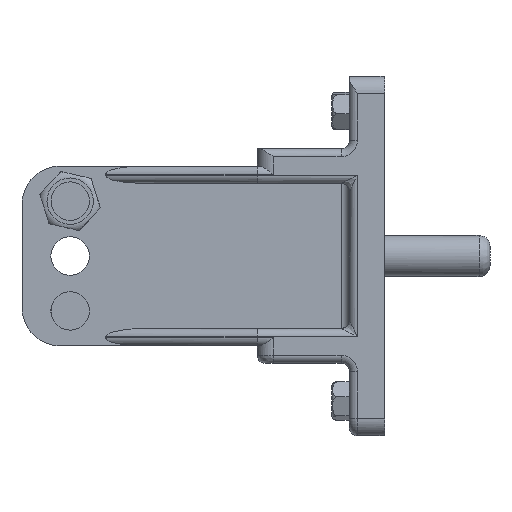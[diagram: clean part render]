
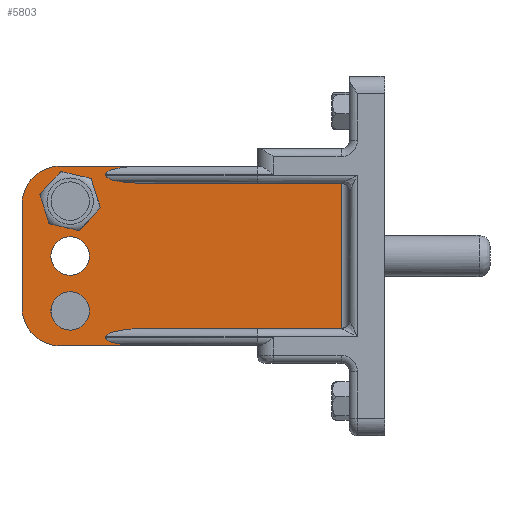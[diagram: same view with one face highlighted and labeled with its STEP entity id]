
A CAD part, left-side view. The second image highlights one B-rep face of the part: STEP entity #5803.
In plain terms, the highlighted planar face has unit normal (-1, 0, 0).
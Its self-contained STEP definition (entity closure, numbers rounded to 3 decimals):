
#65=ELLIPSE('',#6396,1.335,0.3);
#67=ELLIPSE('',#6399,1.335,0.3);
#73=ELLIPSE('',#6409,1.335,0.3);
#75=ELLIPSE('',#6412,1.335,0.3);
#136=FACE_BOUND('',#2091,.T.);
#137=FACE_BOUND('',#2092,.T.);
#138=FACE_BOUND('',#2093,.T.);
#257=PLANE('',#6411);
#707=LINE('',#10740,#1150);
#771=LINE('',#11058,#1214);
#779=LINE('',#11326,#1222);
#784=LINE('',#11363,#1227);
#786=LINE('',#11399,#1229);
#787=LINE('',#11400,#1230);
#788=LINE('',#11402,#1231);
#789=LINE('',#11405,#1232);
#1150=VECTOR('',#7614,10.);
#1214=VECTOR('',#7836,1.);
#1222=VECTOR('',#7868,1.);
#1227=VECTOR('',#7881,1.);
#1229=VECTOR('',#7895,1.);
#1230=VECTOR('',#7896,1.);
#1231=VECTOR('',#7897,1.);
#1232=VECTOR('',#7900,1.);
#1725=FACE_OUTER_BOUND('',#2090,.T.);
#2090=EDGE_LOOP('',(#5157,#5158,#5159,#5160,#5161,#5162,#5163,#5164,#5165,
#5166,#5167,#5168,#5169,#5170));
#2091=EDGE_LOOP('',(#5171));
#2092=EDGE_LOOP('',(#5172));
#2093=EDGE_LOOP('',(#5173));
#2320=CIRCLE('',#6260,0.852);
#2338=CIRCLE('',#6289,0.7);
#2342=CIRCLE('',#6295,0.7);
#2347=CIRCLE('',#6308,1.4);
#2351=CIRCLE('',#6316,1.4);
#2741=VERTEX_POINT('',#10635);
#2745=VERTEX_POINT('',#10670);
#2749=VERTEX_POINT('',#10682);
#2768=VERTEX_POINT('',#10727);
#2769=VERTEX_POINT('',#10728);
#2773=VERTEX_POINT('',#10738);
#2780=VERTEX_POINT('',#10758);
#2848=VERTEX_POINT('',#11039);
#2855=VERTEX_POINT('',#11053);
#2872=VERTEX_POINT('',#11308);
#2873=VERTEX_POINT('',#11309);
#2877=VERTEX_POINT('',#11318);
#2878=VERTEX_POINT('',#11320);
#2882=VERTEX_POINT('',#11361);
#2885=VERTEX_POINT('',#11394);
#2886=VERTEX_POINT('',#11401);
#2887=VERTEX_POINT('',#11403);
#3467=EDGE_CURVE('',#2741,#2741,#2320,.T.);
#3487=EDGE_CURVE('',#2745,#2745,#2338,.T.);
#3493=EDGE_CURVE('',#2749,#2749,#2342,.T.);
#3515=EDGE_CURVE('',#2768,#2769,#2347,.T.);
#3521=EDGE_CURVE('',#2768,#2773,#707,.F.);
#3531=EDGE_CURVE('',#2780,#2773,#2351,.T.);
#3638=EDGE_CURVE('',#2855,#2848,#771,.T.);
#3658=EDGE_CURVE('',#2872,#2873,#65,.T.);
#3663=EDGE_CURVE('',#2877,#2878,#67,.F.);
#3666=EDGE_CURVE('',#2848,#2877,#779,.T.);
#3673=EDGE_CURVE('',#2855,#2882,#784,.T.);
#3677=EDGE_CURVE('',#2885,#2882,#73,.F.);
#3679=EDGE_CURVE('',#2872,#2780,#786,.T.);
#3680=EDGE_CURVE('',#2878,#2873,#787,.T.);
#3681=EDGE_CURVE('',#2886,#2885,#788,.T.);
#3682=EDGE_CURVE('',#2887,#2886,#75,.T.);
#3683=EDGE_CURVE('',#2887,#2769,#789,.T.);
#5157=ORIENTED_EDGE('',*,*,#3515,.F.);
#5158=ORIENTED_EDGE('',*,*,#3521,.T.);
#5159=ORIENTED_EDGE('',*,*,#3531,.F.);
#5160=ORIENTED_EDGE('',*,*,#3679,.F.);
#5161=ORIENTED_EDGE('',*,*,#3658,.T.);
#5162=ORIENTED_EDGE('',*,*,#3680,.F.);
#5163=ORIENTED_EDGE('',*,*,#3663,.F.);
#5164=ORIENTED_EDGE('',*,*,#3666,.F.);
#5165=ORIENTED_EDGE('',*,*,#3638,.F.);
#5166=ORIENTED_EDGE('',*,*,#3673,.T.);
#5167=ORIENTED_EDGE('',*,*,#3677,.F.);
#5168=ORIENTED_EDGE('',*,*,#3681,.F.);
#5169=ORIENTED_EDGE('',*,*,#3682,.F.);
#5170=ORIENTED_EDGE('',*,*,#3683,.T.);
#5171=ORIENTED_EDGE('',*,*,#3467,.T.);
#5172=ORIENTED_EDGE('',*,*,#3487,.T.);
#5173=ORIENTED_EDGE('',*,*,#3493,.T.);
#5803=ADVANCED_FACE('',(#1725,#136,#137,#138),#257,.T.);
#6260=AXIS2_PLACEMENT_3D('',#10636,#7491,#7492);
#6289=AXIS2_PLACEMENT_3D('',#10671,#7551,#7552);
#6295=AXIS2_PLACEMENT_3D('',#10683,#7565,#7566);
#6308=AXIS2_PLACEMENT_3D('',#10729,#7604,#7605);
#6316=AXIS2_PLACEMENT_3D('',#10760,#7632,#7633);
#6396=AXIS2_PLACEMENT_3D('',#11310,#7852,#7853);
#6399=AXIS2_PLACEMENT_3D('',#11321,#7861,#7862);
#6409=AXIS2_PLACEMENT_3D('',#11396,#7889,#7890);
#6411=AXIS2_PLACEMENT_3D('',#11398,#7893,#7894);
#6412=AXIS2_PLACEMENT_3D('',#11404,#7898,#7899);
#7491=DIRECTION('center_axis',(1.,0.,0.));
#7492=DIRECTION('ref_axis',(0.,0.,-1.));
#7551=DIRECTION('center_axis',(1.,0.,0.));
#7552=DIRECTION('ref_axis',(0.,0.,
-1.));
#7565=DIRECTION('center_axis',(1.,0.,0.));
#7566=DIRECTION('ref_axis',(0.,0.,
-1.));
#7604=DIRECTION('center_axis',(1.,0.,0.));
#7605=DIRECTION('ref_axis',(0.,0.707,0.707));
#7614=DIRECTION('',(0.,0.,1.));
#7632=DIRECTION('center_axis',(1.,0.,0.));
#7633=DIRECTION('ref_axis',(0.,0.707,-0.707));
#7836=DIRECTION('',(0.,0.,-1.));
#7852=DIRECTION('center_axis',(1.,0.,0.));
#7853=DIRECTION('ref_axis',(0.,1.,0.));
#7861=DIRECTION('center_axis',(1.,0.,0.));
#7862=DIRECTION('ref_axis',(0.,1.,0.));
#7868=DIRECTION('',(0.,1.,0.));
#7881=DIRECTION('',(0.,1.,0.));
#7889=DIRECTION('center_axis',(1.,0.,0.));
#7890=DIRECTION('ref_axis',(0.,1.,0.));
#7893=DIRECTION('center_axis',(-1.,0.,0.));
#7894=DIRECTION('ref_axis',(0.,0.,
1.));
#7895=DIRECTION('',(0.,1.,0.));
#7896=DIRECTION('',(0.,0.,-1.));
#7897=DIRECTION('',(0.,0.,-1.));
#7898=DIRECTION('center_axis',(-1.,0.,0.));
#7899=DIRECTION('ref_axis',(0.,1.,0.));
#7900=DIRECTION('',(0.,1.,0.));
#10635=CARTESIAN_POINT('',(-287.827,52.701,-130.924));
#10636=CARTESIAN_POINT('Origin',(-287.827,52.701,-131.776));
#10670=CARTESIAN_POINT('',(-287.827,52.701,-133.076));
#10671=CARTESIAN_POINT('Origin',(-287.827,52.701,-133.776));
#10682=CARTESIAN_POINT('',(-287.827,52.701,-135.076));
#10683=CARTESIAN_POINT('Origin',(-287.827,52.701,-135.776));
#10727=CARTESIAN_POINT('',(-287.827,54.454,-131.898));
#10728=CARTESIAN_POINT('',(-287.827,53.054,-130.498));
#10729=CARTESIAN_POINT('Origin',(-287.827,53.054,-131.898));
#10738=CARTESIAN_POINT('',(-287.827,54.454,-135.652));
#10740=CARTESIAN_POINT('',(-287.827,54.454,-135.334));
#10758=CARTESIAN_POINT('',(-287.827,53.054,-137.052));
#10760=CARTESIAN_POINT('Origin',(-287.827,53.054,-135.652));
#11039=CARTESIAN_POINT('',(-287.827,42.833,-136.417));
#11053=CARTESIAN_POINT('',(-287.827,42.833,-131.133));
#11058=CARTESIAN_POINT('',(-287.827,42.833,-136.606));
#11308=CARTESIAN_POINT('',(-287.827,50.064,-137.052));
#11309=CARTESIAN_POINT('',(-287.827,51.398,-136.752));
#11310=CARTESIAN_POINT('Origin',(-287.827,50.064,-136.752));
#11318=CARTESIAN_POINT('',(-287.827,50.064,-136.417));
#11320=CARTESIAN_POINT('',(-287.827,51.398,-136.717));
#11321=CARTESIAN_POINT('Origin',(-287.827,50.064,-136.717));
#11326=CARTESIAN_POINT('',(-287.827,41.898,-136.417));
#11361=CARTESIAN_POINT('',(-287.827,50.064,-131.133));
#11363=CARTESIAN_POINT('',(-287.827,41.898,-131.133));
#11394=CARTESIAN_POINT('',(-287.827,51.398,-130.833));
#11396=CARTESIAN_POINT('Origin',(-287.827,50.064,-130.833));
#11398=CARTESIAN_POINT('Origin',(-287.827,41.898,-136.417));
#11399=CARTESIAN_POINT('',(-287.827,41.898,-137.052));
#11400=CARTESIAN_POINT('',(-287.827,51.398,-130.498));
#11401=CARTESIAN_POINT('',(-287.827,51.398,-130.798));
#11402=CARTESIAN_POINT('',(-287.827,51.398,-130.498));
#11403=CARTESIAN_POINT('',(-287.827,50.064,-130.498));
#11404=CARTESIAN_POINT('Origin',(-287.827,50.064,-130.798));
#11405=CARTESIAN_POINT('',(-287.827,41.898,-130.498));
